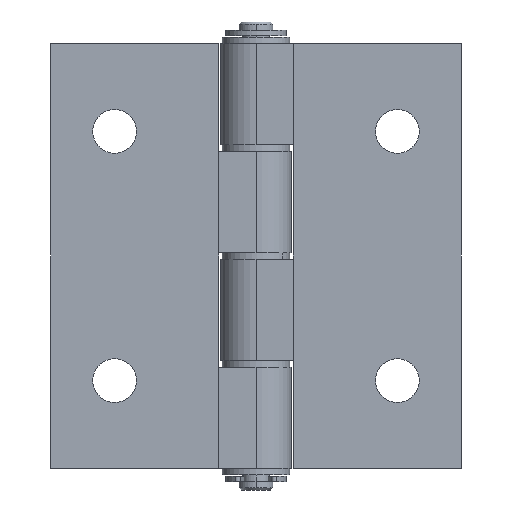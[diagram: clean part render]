
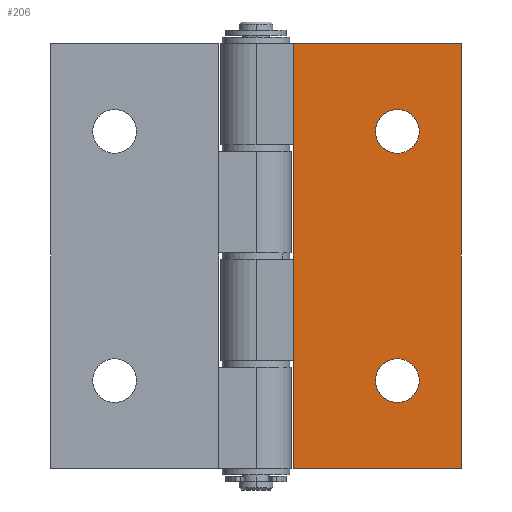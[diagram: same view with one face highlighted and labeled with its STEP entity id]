
A CAD part, front view. The second image highlights one B-rep face of the part: STEP entity #206.
In plain terms, the highlighted planar face has unit normal (0, -1, 0).
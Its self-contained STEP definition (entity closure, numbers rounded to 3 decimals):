
#4 = CARTESIAN_POINT ( 'NONE',  ( 30.5, -5.75, -31.5 ) ) ;
#6 = CARTESIAN_POINT ( 'NONE',  ( 5.5, -5.75, 31.5 ) ) ;
#9 = ORIENTED_EDGE ( 'NONE', *, *, #354, .T. ) ;
#99 = VERTEX_POINT ( 'NONE', #1275 ) ;
#155 = CARTESIAN_POINT ( 'NONE',  ( 5.5, -5.75, 31.5 ) ) ;
#180 = VECTOR ( 'NONE', #506, 1000. ) ;
#195 = ORIENTED_EDGE ( 'NONE', *, *, #414, .T. ) ;
#206 = ADVANCED_FACE ( 'NONE', ( #1565, #924, #2911 ), #995, .F. ) ;
#244 = DIRECTION ( 'NONE',  ( 0., 1., 0. ) ) ;
#249 = CARTESIAN_POINT ( 'NONE',  ( 21., -5.75, -21.75 ) ) ;
#344 = CARTESIAN_POINT ( 'NONE',  ( 21., -5.75, 15.25 ) ) ;
#350 = VECTOR ( 'NONE', #424, 1000. ) ;
#354 = EDGE_CURVE ( 'NONE', #734, #731, #838, .T. ) ;
#360 = AXIS2_PLACEMENT_3D ( 'NONE', #1364, #2794, #1593 ) ;
#414 = EDGE_CURVE ( 'NONE', #731, #734, #760, .T. ) ;
#424 = DIRECTION ( 'NONE',  ( 0., 0., -1. ) ) ;
#506 = DIRECTION ( 'NONE',  ( 1., 0., 0. ) ) ;
#560 = ORIENTED_EDGE ( 'NONE', *, *, #1944, .T. ) ;
#563 = ORIENTED_EDGE ( 'NONE', *, *, #2833, .T. ) ;
#616 = CARTESIAN_POINT ( 'NONE',  ( 5.5, -5.75, -31.5 ) ) ;
#639 = CARTESIAN_POINT ( 'NONE',  ( 5.5, -5.75, 31.5 ) ) ;
#641 = AXIS2_PLACEMENT_3D ( 'NONE', #2131, #691, #2387 ) ;
#683 = CIRCLE ( 'NONE', #1594, 3.25 ) ;
#691 = DIRECTION ( 'NONE',  ( 0., 1., 0. ) ) ;
#731 = VERTEX_POINT ( 'NONE', #2531 ) ;
#734 = VERTEX_POINT ( 'NONE', #249 ) ;
#760 = CIRCLE ( 'NONE', #360, 3.25 ) ;
#838 = CIRCLE ( 'NONE', #2843, 3.25 ) ;
#865 = EDGE_CURVE ( 'NONE', #2459, #1920, #683, .T. ) ;
#900 = ORIENTED_EDGE ( 'NONE', *, *, #2793, .F. ) ;
#924 = FACE_BOUND ( 'NONE', #2731, .T. ) ;
#992 = VECTOR ( 'NONE', #2357, 1000. ) ;
#995 = PLANE ( 'NONE',  #1884 ) ;
#1016 = VERTEX_POINT ( 'NONE', #616 ) ;
#1118 = CARTESIAN_POINT ( 'NONE',  ( 21., -5.75, 21.75 ) ) ;
#1173 = CARTESIAN_POINT ( 'NONE',  ( 21., -5.75, 18.5 ) ) ;
#1275 = CARTESIAN_POINT ( 'NONE',  ( 30.5, -5.75, 31.5 ) ) ;
#1364 = CARTESIAN_POINT ( 'NONE',  ( 21., -5.75, -18.5 ) ) ;
#1382 = DIRECTION ( 'NONE',  ( 0., 1., 0. ) ) ;
#1385 = DIRECTION ( 'NONE',  ( 0., 0., 1. ) ) ;
#1393 = DIRECTION ( 'NONE',  ( 0., 0., 1. ) ) ;
#1399 = EDGE_CURVE ( 'NONE', #1857, #1016, #2185, .T. ) ;
#1542 = VECTOR ( 'NONE', #3075, 1000. ) ;
#1565 = FACE_BOUND ( 'NONE', #2509, .T. ) ;
#1593 = DIRECTION ( 'NONE',  ( 0., 0., 1. ) ) ;
#1594 = AXIS2_PLACEMENT_3D ( 'NONE', #1173, #1382, #1393 ) ;
#1627 = LINE ( 'NONE', #3058, #350 ) ;
#1635 = VERTEX_POINT ( 'NONE', #4 ) ;
#1692 = DIRECTION ( 'NONE',  ( 0., 0., 1. ) ) ;
#1698 = LINE ( 'NONE', #1957, #180 ) ;
#1857 = VERTEX_POINT ( 'NONE', #155 ) ;
#1884 = AXIS2_PLACEMENT_3D ( 'NONE', #6, #244, #1692 ) ;
#1920 = VERTEX_POINT ( 'NONE', #1118 ) ;
#1944 = EDGE_CURVE ( 'NONE', #1016, #1635, #2279, .T. ) ;
#1957 = CARTESIAN_POINT ( 'NONE',  ( 5.5, -5.75, 31.5 ) ) ;
#2083 = CARTESIAN_POINT ( 'NONE',  ( 21., -5.75, -18.5 ) ) ;
#2131 = CARTESIAN_POINT ( 'NONE',  ( 21., -5.75, 18.5 ) ) ;
#2185 = LINE ( 'NONE', #639, #1542 ) ;
#2279 = LINE ( 'NONE', #2321, #992 ) ;
#2302 = EDGE_LOOP ( 'NONE', ( #560, #900, #2811, #2355 ) ) ;
#2321 = CARTESIAN_POINT ( 'NONE',  ( 5.5, -5.75, -31.5 ) ) ;
#2355 = ORIENTED_EDGE ( 'NONE', *, *, #1399, .T. ) ;
#2357 = DIRECTION ( 'NONE',  ( 1., 0., 0. ) ) ;
#2387 = DIRECTION ( 'NONE',  ( 0., 0., 1. ) ) ;
#2459 = VERTEX_POINT ( 'NONE', #344 ) ;
#2509 = EDGE_LOOP ( 'NONE', ( #195, #9 ) ) ;
#2531 = CARTESIAN_POINT ( 'NONE',  ( 21., -5.75, -15.25 ) ) ;
#2633 = ORIENTED_EDGE ( 'NONE', *, *, #865, .T. ) ;
#2731 = EDGE_LOOP ( 'NONE', ( #563, #2633 ) ) ;
#2762 = CIRCLE ( 'NONE', #641, 3.25 ) ;
#2793 = EDGE_CURVE ( 'NONE', #99, #1635, #1627, .T. ) ;
#2794 = DIRECTION ( 'NONE',  ( 0., 1., 0. ) ) ;
#2811 = ORIENTED_EDGE ( 'NONE', *, *, #2990, .F. ) ;
#2833 = EDGE_CURVE ( 'NONE', #1920, #2459, #2762, .T. ) ;
#2843 = AXIS2_PLACEMENT_3D ( 'NONE', #2083, #3053, #1385 ) ;
#2911 = FACE_OUTER_BOUND ( 'NONE', #2302, .T. ) ;
#2990 = EDGE_CURVE ( 'NONE', #1857, #99, #1698, .T. ) ;
#3053 = DIRECTION ( 'NONE',  ( 0., 1., 0. ) ) ;
#3058 = CARTESIAN_POINT ( 'NONE',  ( 30.5, -5.75, 31.5 ) ) ;
#3075 = DIRECTION ( 'NONE',  ( 0., 0., -1. ) ) ;
